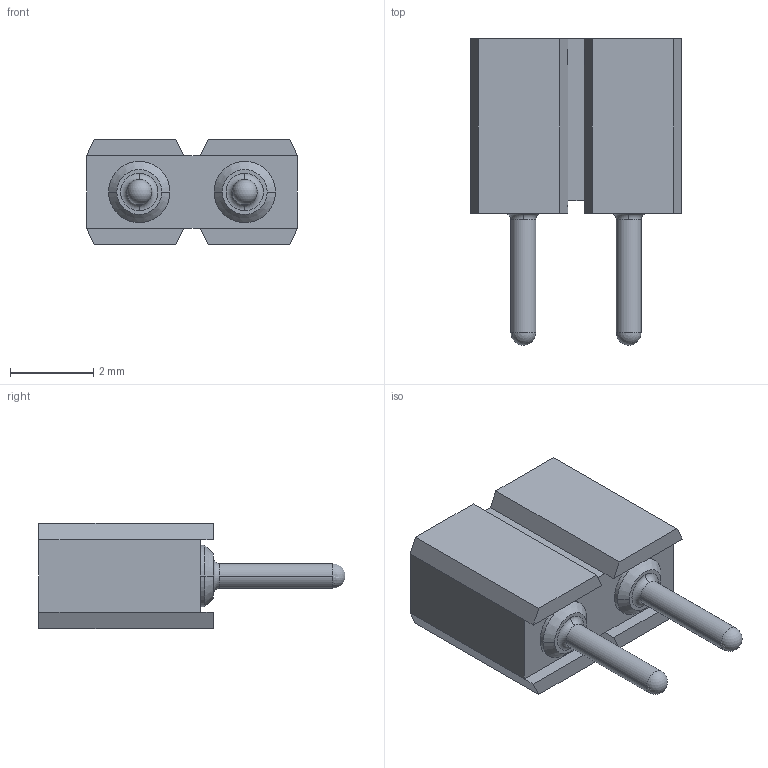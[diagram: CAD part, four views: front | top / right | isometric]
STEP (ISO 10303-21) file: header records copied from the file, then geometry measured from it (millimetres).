
FILE_DESCRIPTION(('STEP AP242'),'1');
FILE_NAME('21798.stp','2019-04-14T16:54:42',('TraceParts'),('TraceParts S.A.'),'Spatial InterOp 3D',' ',' ');
FILE_SCHEMA(('AP242_MANAGED_MODEL_BASED_3D_ENGINEERING_MIM_LF {1 0 10303 442 1 1 4}'));
Length unit declared in the file: millimetre
Products named in the file (1): 21798
Bounding box: 5.08 x 7.38 x 2.54 mm (x, y, z)
Volume: 43.2 mm3; surface area: 155.2 mm2
Topology: 1 solids, 1 shells, 94 faces, 224 edges, 134 vertices
Faces by surface type: plane 32, cone 28, cylinder 20, torus 12, sphere 2
Entity records: 5182 total; most frequent: DIRECTION 510, CARTESIAN_POINT 445, STYLED_ITEM 444, PRESENTATION_STYLE_ASSIGNMENT 444, COLOUR_RGB 444, ORIENTED_EDGE 432, EDGE_CURVE 216, CURVE_STYLE 216
